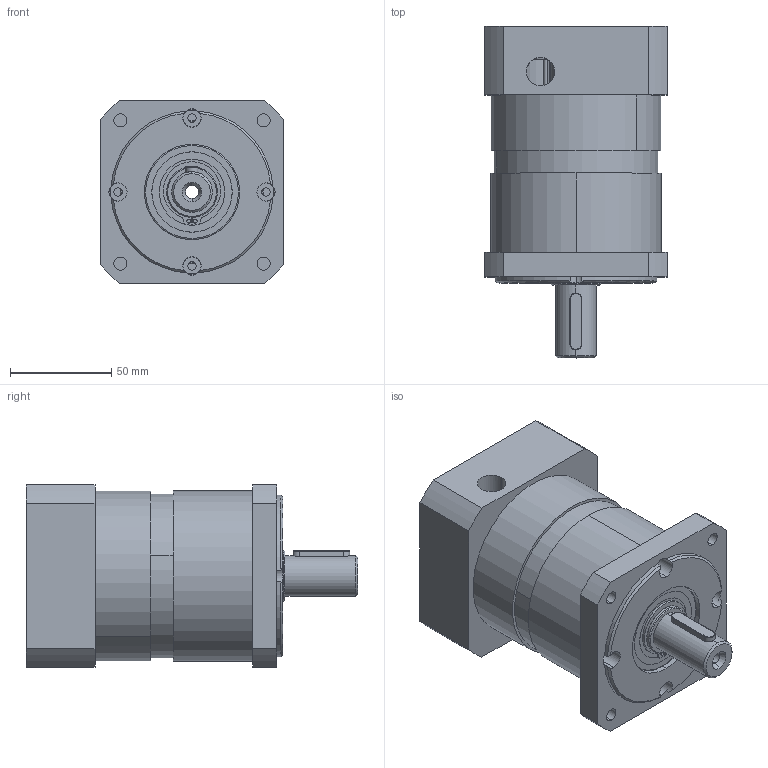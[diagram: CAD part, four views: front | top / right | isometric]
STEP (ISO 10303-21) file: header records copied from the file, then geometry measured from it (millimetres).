
FILE_DESCRIPTION (( 'STEP AP214' ), '1' );
FILE_NAME ('84珨撰源怀堤俋褲.STEP', '2017-04-27T05:13:00', ( '' ), ( '' ), 'SwSTEP 2.0', 'SolidWorks 2016', '' );
FILE_SCHEMA (( 'AUTOMOTIVE_DESIGN' ));
Length unit declared in the file: millimetre
Products named in the file (1): 84珨撰源怀堤俋褲
Bounding box: 90 x 163.7 x 90 mm (x, y, z)
Surface area: 82109.5 mm2 (no closed solid volume)
Topology: 0 solids, 13 shells, 158 faces, 518 edges, 371 vertices
Faces by surface type: cylinder 88, plane 45, cone 21, torus 4
Entity records: 7850 total; most frequent: CARTESIAN_POINT 1455, DIRECTION 1037, ORIENTED_EDGE 850, EDGE_CURVE 518, AXIS2_PLACEMENT_3D 419, VERTEX_POINT 371, CIRCLE 260, VECTOR 199
